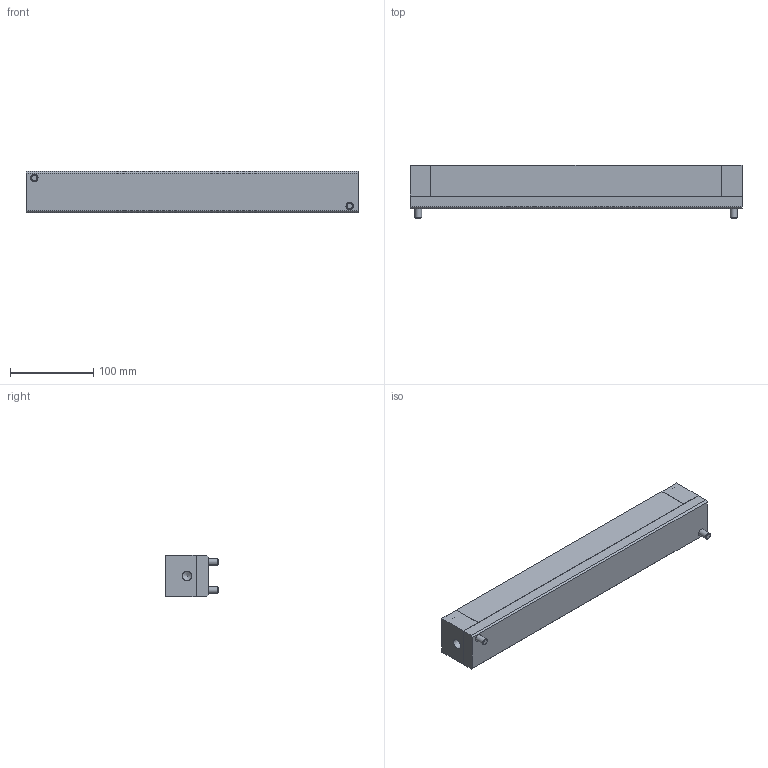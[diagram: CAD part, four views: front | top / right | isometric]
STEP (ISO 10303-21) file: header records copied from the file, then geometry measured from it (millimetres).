
FILE_DESCRIPTION( ( 'STEP AP214' ), '1' );
FILE_NAME( 'Z:/01-DesignData/標準品図面/★Web／カタログ用データ(型式別 3点Set)/072-ISR-C50D 系/ISR-C50D-400-A_0_.stp', '2022-05-10T00:43:10', ( 'License CC BY-ND 4.0' ), ( 'CADENAS' ), ' ', 'PARTsolutions', ' ' );
FILE_SCHEMA( ( 'AUTOMOTIVE_DESIGN { 1 0 10303 214 1 1 1 1 }' ) );
Length unit declared in the file: millimetre
Products named in the file (5): ISR-C50D-400-A(0); _ISR-C50D-400-A-Body; _ISR-C50D-400-A-Box; _ISR-C50D-400-A(0)-Ball; _ISR-C50D-400-A-screw
Assembly tree (11 placements, depth 2):
  ISR-C50D-400-A(0)
    _ISR-C50D-400-A-Body
    _ISR-C50D-400-A-Box
    _ISR-C50D-400-A(0)-Ball  x7
    _ISR-C50D-400-A-screw  x2
Bounding box: 400 x 64 x 49.5 mm (x, y, z)
Volume: 977109.7 mm3; surface area: 223281.5 mm2
Topology: 11 solids, 11 shells, 478 faces, 1024 edges, 625 vertices
Faces by surface type: plane 335, cylinder 75, torus 32, cone 29, sphere 7
Full cylindrical faces by diameter (mm): 8 x2, 8.5 x14, 9 x2, 9.5 x14, 13 x4, 14.5 x4, 25.4 x7, 38.5 x7, 39 x7, 42 x14
Entity records: 13304 total; most frequent: DIRECTION 1794, CARTESIAN_POINT 1663, ORIENTED_EDGE 1478, EDGE_CURVE 739, AXIS2_PLACEMENT_3D 645, EDGE_LOOP 548, VERTEX_POINT 514, LINE 504
